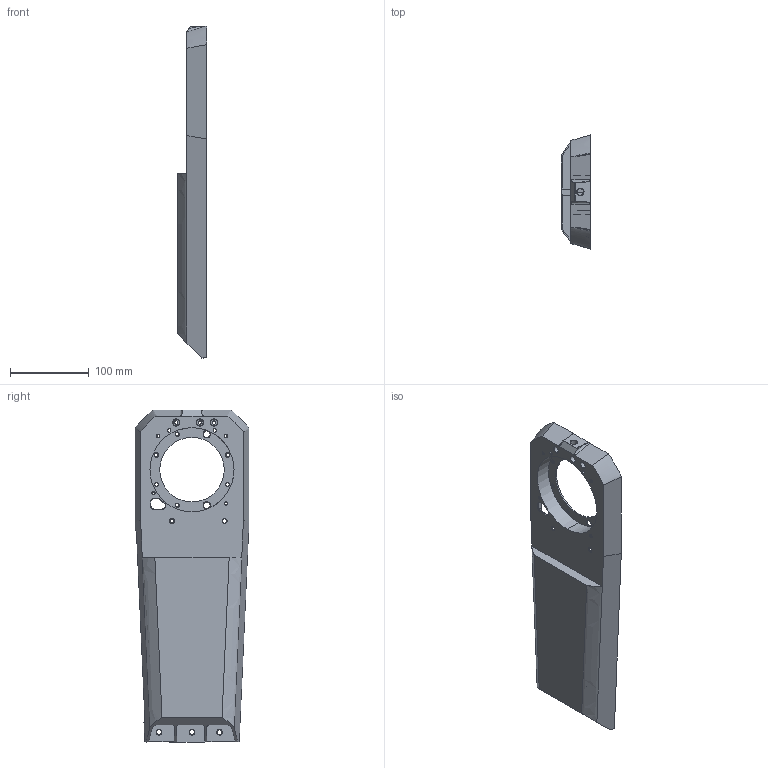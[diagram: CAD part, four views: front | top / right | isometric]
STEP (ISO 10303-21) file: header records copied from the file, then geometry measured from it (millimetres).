
FILE_DESCRIPTION((''),'2;1');
FILE_NAME('ST-Y_2_1_1','2025-07-12T11:06:07',('Administrator'),(''),'CREO PARAMETRIC BY PTC INC, 2022073','CREO PARAMETRIC BY PTC INC, 2022073','');
FILE_SCHEMA(('CONFIG_CONTROL_DESIGN'));
Length unit declared in the file: millimetre
Products named in the file (1): ST-Y_2_1_1
Bounding box: 37 x 145 x 422.5 mm (x, y, z)
Volume: 169276.6 mm3; surface area: 187161.6 mm2
Topology: 1 solids, 1 shells, 445 faces, 1271 edges, 831 vertices
Faces by surface type: cylinder 208, plane 139, cone 70, bspline 15, extrusion 13
Entity records: 16750 total; most frequent: CARTESIAN_POINT 4947, ORIENTED_EDGE 2534, DIRECTION 2420, EDGE_CURVE 1267, AXIS2_PLACEMENT_3D 884, VERTEX_POINT 831, VECTOR 652, LINE 639
